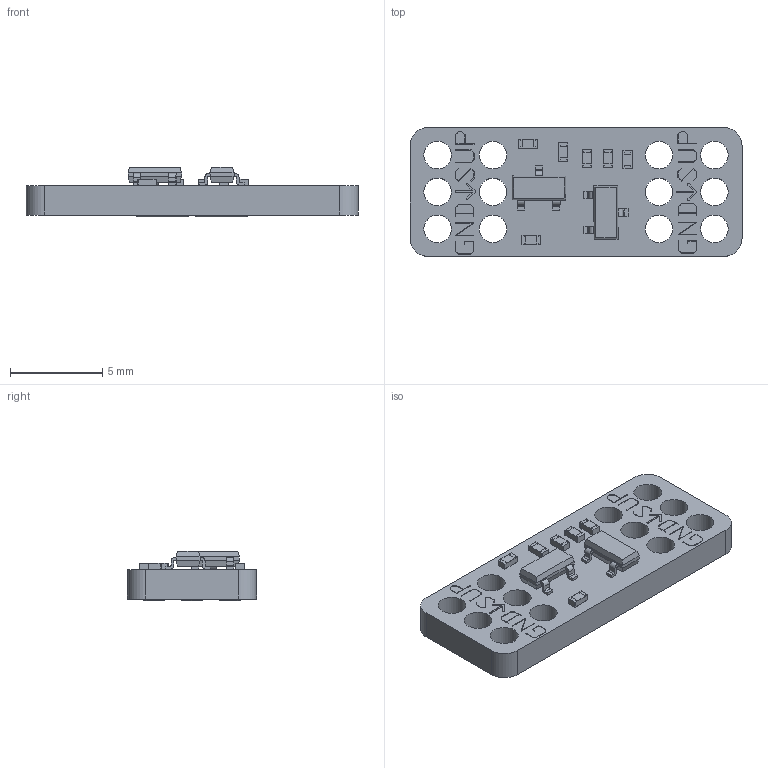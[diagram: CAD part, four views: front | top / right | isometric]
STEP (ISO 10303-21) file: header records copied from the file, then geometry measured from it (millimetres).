
FILE_DESCRIPTION(/* description */ ('','CAx-IF Rec.Pracs.---Representation and Presentation of Product Manufacturing Information (PMI)---4.0---2014-10-13'),/* implementation_level */ '2;1');
FILE_NAME(/* name */ 'C:\Temp\Shifter - hw_Shifter - BASIC.stp',/* time_stamp */ '2023-06-29T11:25:58+02:00',/* author */ ('jbs3'),/* organization */ (''),/* preprocessor_version */ 'ST-DEVELOPER v17',/* originating_system */ 'Autodesk Inventor 2018',/* authorisation */ '');
FILE_SCHEMA (('AP242_MANAGED_MODEL_BASED_3D_ENGINEERING_MIM_LF { 1 0 10303 442 1 1 4 }'));
Length unit declared in the file: millimetre
Products named in the file (1): Shifter -  hw_Shifter - BASIC
Bounding box: 18 x 7 x 2.7 mm (x, y, z)
Volume: 175.3 mm3; surface area: 424.5 mm2
Topology: 9 solids, 9 shells, 774 faces, 2060 edges, 1352 vertices
Faces by surface type: plane 694, cylinder 80
Full cylindrical faces by diameter (mm): 1.5 x12
Entity records: 24618 total; most frequent: CARTESIAN_POINT 4212, ORIENTED_EDGE 4120, DIRECTION 3780, EDGE_CURVE 2060, LINE 1924, VECTOR 1924, VERTEX_POINT 1352, AXIS2_PLACEMENT_3D 932
